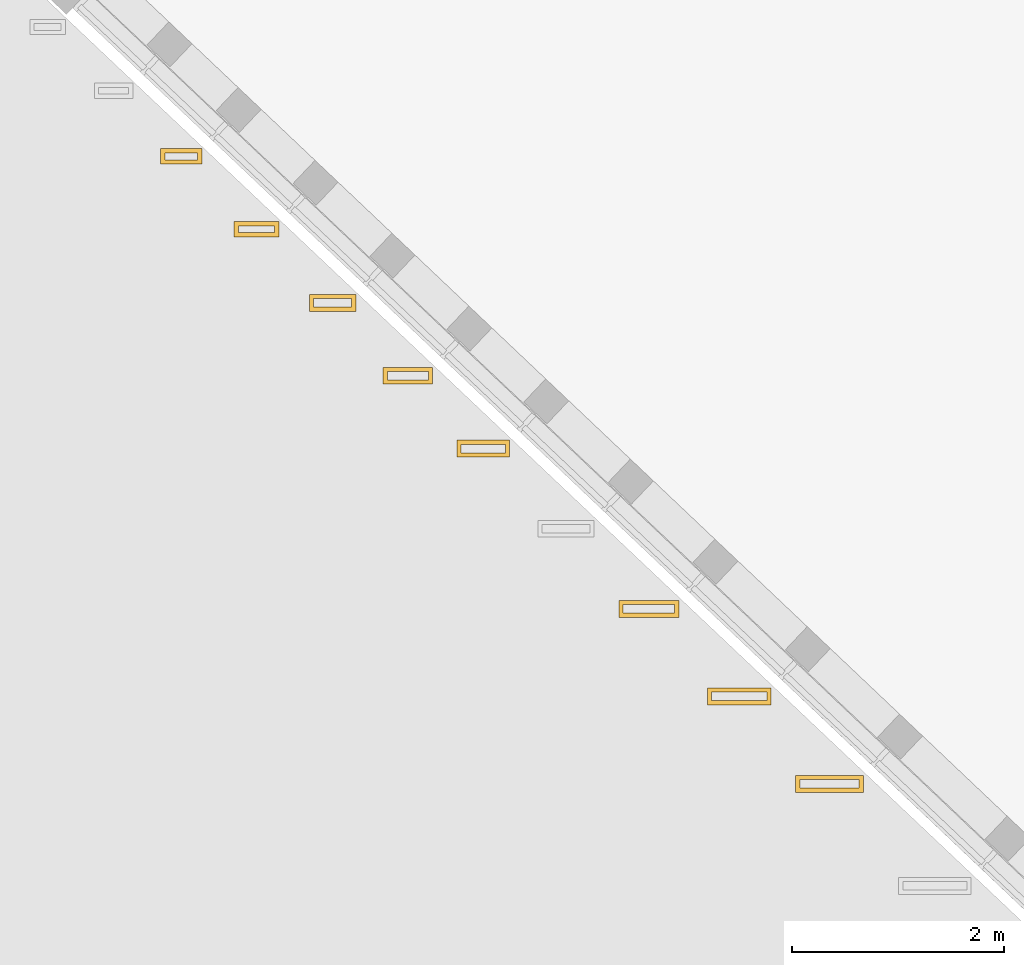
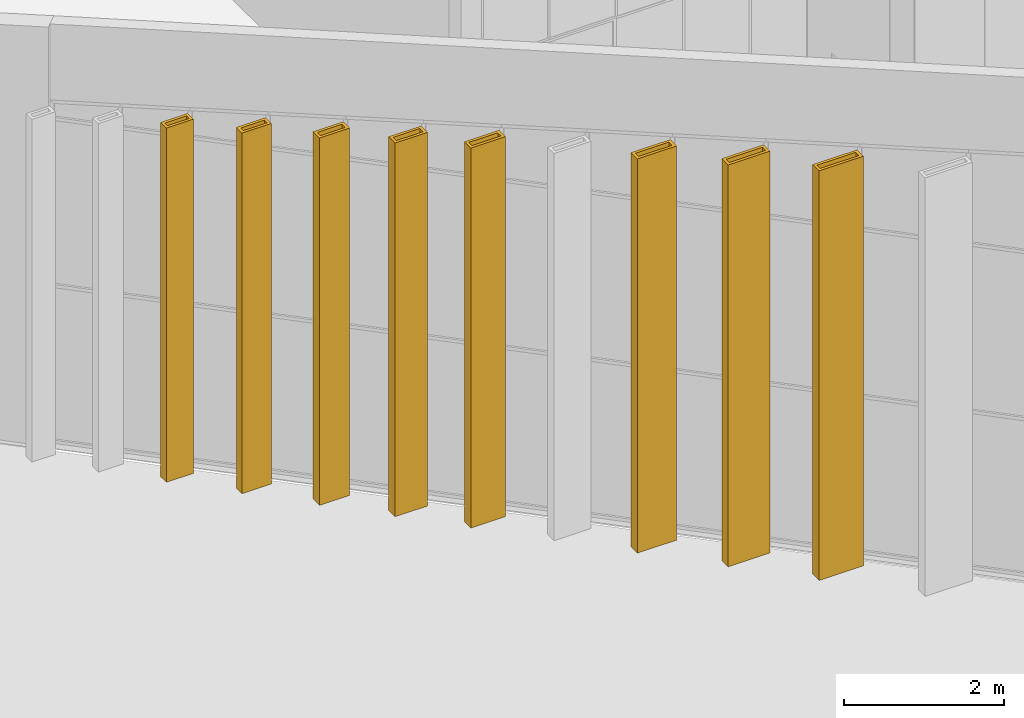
# One storey, part 176 of 246: 8 coverings.
"""IFC2X3 building model written with IfcOpenShell, lengths in millimetres."""

from ifc_helpers import new_model, entity, si_unit, converted_unit, derived_unit, money_unit, direction, frame, origin_with_axes, place, context, subcontext, project, spatial, faceted_brep, material, material_list, type_object, element, save


model = new_model("IFC2X3")

# Units and contexts
model_context = context("Model", 3, precision=0.01, world=origin_with_axes(), true_north=direction((0.0, 1.0)))
body_context = subcontext(model_context, "Body", "Model", "MODEL_VIEW")
ifc_project = project(units=[si_unit("LENGTHUNIT", "METRE", prefix="MILLI"), si_unit("AREAUNIT", "SQUARE_METRE"), si_unit("VOLUMEUNIT", "CUBIC_METRE"), converted_unit("PLANEANGLEUNIT", "DEGREE", entity("IfcPlaneAngleMeasure", 0.0174532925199), si_unit("PLANEANGLEUNIT", "RADIAN"), dimensions=[0, 0, 0, 0, 0, 0, 0]), si_unit("SOLIDANGLEUNIT", "STERADIAN"), money_unit("EUR"), converted_unit("TIMEUNIT", "Year", entity("IfcTimeMeasure", 31556926.0), si_unit("TIMEUNIT", "SECOND"), dimensions=[0, 0, 1, 0, 0, 0, 0]), si_unit("MASSUNIT", "GRAM", prefix="KILO"), si_unit("THERMODYNAMICTEMPERATUREUNIT", "DEGREE_CELSIUS"), si_unit("LUMINOUSINTENSITYUNIT", "LUMEN"), si_unit("ENERGYUNIT", "JOULE", prefix="MEGA"), derived_unit("THERMALCONDUCTANCEUNIT", [(si_unit("POWERUNIT", "WATT"), 1), (si_unit("LENGTHUNIT", "METRE"), -1), (si_unit("THERMODYNAMICTEMPERATUREUNIT", "KELVIN"), -1)]), derived_unit("SPECIFICHEATCAPACITYUNIT", [(si_unit("ENERGYUNIT", "JOULE"), 1), (si_unit("MASSUNIT", "GRAM", prefix="KILO"), -1), (si_unit("THERMODYNAMICTEMPERATUREUNIT", "KELVIN"), -1)]), derived_unit("MASSDENSITYUNIT", [(si_unit("MASSUNIT", "GRAM", prefix="KILO"), 1), (si_unit("VOLUMEUNIT", "CUBIC_METRE"), -1)])], contexts=[model_context])

# Site, building, storey
site_placement = place(None, origin_with_axes())
site = spatial("IfcSite", under=ifc_project, at=site_placement, Name="L.Koidula tn 11b", CompositionType="ELEMENT")
building_placement = place(site_placement, origin_with_axes())
building = spatial("IfcBuilding", under=site, at=building_placement, Name="Rakvere Riigigümnaasium", CompositionType="ELEMENT")
storey_placement = place(building_placement, origin_with_axes())
storey = spatial("IfcBuildingStorey", under=building, at=storey_placement, Name="1.korrus 0,00", CompositionType="ELEMENT", Elevation=0.0)

# Coverings
ifc_material_1 = material(Name="Puit-fassaad")
ifc_material_2 = material(Name="Teras - Konstruktsioon")
ifc_material_list = material_list([ifc_material_1, ifc_material_1, ifc_material_1, ifc_material_1, ifc_material_2])
covering_type_1 = type_object("IfcCoveringType", Name="AR-Lamell-laudisega 640 x 160", PredefinedType="NOTDEFINED")
covering_1_placement = place(storey_placement, frame((25640.2598745, 52503.4373023, 0.0), z_axis=(0.0, 0.0, 1.0), x_axis=(1.0, 0.0, 0.0)))
element("IfcCovering", 1, at=covering_1_placement, inside=storey, type_object=covering_type_1, material=ifc_material_list, Name="L-B7", PredefinedType="NOTDEFINED", context=body_context, shape_type="Brep", body=[
    faceted_brep([(-299.999998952, -60.0187676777, 0.0), (-299.999998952, -80.0001239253, 0.0), (-299.999998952, -80.0001239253, 6248.0), (-299.999998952, -60.0187676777, 6248.0), (270.000001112, -60.018758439, 0.0), (299.999991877, -60.0001239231, 0.0), (320.000001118, -60.0001239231, 0.0), (320.000001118, -80.0001239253, 0.0), (320.000001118, -80.0001239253, 6248.0), (320.000001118, -60.0001239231, 6248.0), (299.999991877, -60.0001239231, 6248.0), (270.000001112, -60.018758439, 6248.0)], [[[0, 1, 2, 3]], [[0, 4, 5, 6, 7, 1]], [[1, 7, 8, 2]], [[3, 2, 8, 9, 10, 11]], [[4, 0, 3, 11]], [[5, 4, 11, 10]], [[6, 5, 10, 9]], [[7, 6, 9, 8]]]),
    faceted_brep([(299.999991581, -60.0001223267, 0.0), (320.000001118, -60.0001223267, 0.0), (320.000001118, -60.0001223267, 6248.0), (299.999991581, -60.0001223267, 6248.0), (300.000001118, 60.0001256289, 0.0), (299.999991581, 80.0001256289, 0.0), (320.000001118, 80.0001256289, 0.0), (320.000001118, 80.0001256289, 6248.0), (299.999991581, 80.0001256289, 6248.0), (300.000001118, 60.0001256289, 6248.0)], [[[0, 1, 2, 3]], [[0, 4, 5, 6, 1]], [[1, 6, 7, 2]], [[3, 2, 7, 8, 9]], [[4, 0, 3, 9]], [[5, 4, 9, 8]], [[6, 5, 8, 7]]]),
    faceted_brep([(-319.999998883, 80.0001157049, 0.0), (-319.999998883, 60.0001250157, 0.0), (-319.999998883, 60.0001250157, 6248.0), (-319.999998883, 80.0001157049, 6248.0), (299.999998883, 80.0001157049, 0.0), (299.999998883, 60.0001250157, 0.0), (299.999998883, 60.0001250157, 6248.0), (299.999998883, 80.0001157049, 6248.0)], [[[0, 1, 2, 3]], [[0, 4, 5, 1]], [[1, 5, 6, 2]], [[3, 2, 6, 7]], [[4, 0, 3, 7]], [[5, 4, 7, 6]]]),
    faceted_brep([(-319.999998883, -80.0001239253, 0.0), (-299.999998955, -80.0001239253, 0.0), (-299.999998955, -80.0001239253, 6248.0), (-319.999998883, -80.0001239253, 6248.0), (-319.999998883, 60.0001250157, 0.0), (-300.281253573, 60.0001250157, 0.0), (-300.281253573, -60.018767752, 0.0), (-299.999998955, -60.018767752, 0.0), (-299.999998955, -60.018767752, 6248.0), (-300.281253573, -60.018767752, 6248.0), (-300.281253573, 60.0001250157, 6248.0), (-319.999998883, 60.0001250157, 6248.0)], [[[0, 1, 2, 3]], [[0, 4, 5, 6, 7, 1]], [[1, 7, 8, 2]], [[3, 2, 8, 9, 10, 11]], [[4, 0, 3, 11]], [[5, 4, 11, 10]], [[6, 5, 10, 9]], [[7, 6, 9, 8]]]),
    faceted_brep([(-300.281249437, -60.0187652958, 0.0), (270.000001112, -60.018758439, 0.0), (270.000001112, -60.018758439, 6248.0), (-300.281249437, -60.0187652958, 6248.0), (-300.281249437, 60.0001239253, 0.0), (299.999998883, 60.0001239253, 0.0), (299.999998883, -60.0187652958, 0.0), (-280.326915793, 40.1896922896, 0.0), (-280.326915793, -39.5291016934, 0.0), (279.615300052, -39.5291016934, 0.0), (279.615300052, 40.1896922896, 0.0), (299.999998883, -60.0187652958, 6248.0), (299.999998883, 60.0001239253, 6248.0), (-300.281249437, 60.0001239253, 6248.0), (-280.326915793, 40.1896922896, 6248.0), (279.615300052, 40.1896922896, 6248.0), (279.615300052, -39.5291016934, 6248.0), (-280.326915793, -39.5291016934, 6248.0)], [[[0, 1, 2, 3]], [[0, 4, 5, 6, 1], [7, 8, 9, 10]], [[1, 6, 11, 2]], [[3, 2, 11, 12, 13], [14, 15, 16, 17]], [[4, 0, 3, 13]], [[5, 4, 13, 12]], [[6, 5, 12, 11]], [[8, 7, 14, 17]], [[9, 8, 17, 16]], [[10, 9, 16, 15]], [[7, 10, 15, 14]]]),
])
covering_type_2 = type_object("IfcCoveringType", Name="AR-Lamell-laudisega 603 x 160", PredefinedType="NOTDEFINED")
covering_2_placement = place(storey_placement, frame((24787.6075989, 53328.7212983, 0.0), z_axis=(0.0, 0.0, 1.0), x_axis=(1.0, 0.0, 0.0)))
element("IfcCovering", 2, at=covering_2_placement, inside=storey, type_object=covering_type_2, material=ifc_material_list, Name="L-B6", PredefinedType="NOTDEFINED", context=body_context, shape_type="Brep", body=[
    faceted_brep([(-281.499997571, -60.0187889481, 0.0), (-281.499997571, -80.0001485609, 0.0), (-281.499997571, -80.0001485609, 6130.0), (-281.499997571, -60.0187889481, 6130.0), (251.49998992, -60.0187889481, 0.0), (281.499998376, -60.0001458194, 0.0), (301.500001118, -60.0001458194, 0.0), (301.500001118, -80.0001485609, 0.0), (301.500001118, -80.0001485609, 6130.0), (301.500001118, -60.0001458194, 6130.0), (281.499998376, -60.0001458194, 6130.0), (251.49998992, -60.0187889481, 6130.0)], [[[0, 1, 2, 3]], [[0, 4, 5, 6, 7, 1]], [[1, 7, 8, 2]], [[3, 2, 8, 9, 10, 11]], [[4, 0, 3, 11]], [[5, 4, 11, 10]], [[6, 5, 10, 9]], [[7, 6, 9, 8]]]),
    faceted_brep([(281.499999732, -60.0001465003, 0.0), (301.500001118, -60.0001465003, 0.0), (301.500001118, -60.0001465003, 6130.0), (281.499999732, -60.0001465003, 6130.0), (281.499999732, 60.0001493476, 0.0), (281.499999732, 80.0001507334, 0.0), (301.500001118, 80.0001507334, 0.0), (301.500001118, 80.0001507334, 6130.0), (281.499999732, 80.0001507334, 6130.0), (281.499999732, 60.0001493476, 6130.0)], [[[0, 1, 2, 3]], [[0, 4, 5, 6, 1]], [[1, 6, 7, 2]], [[3, 2, 7, 8, 9]], [[4, 0, 3, 9]], [[5, 4, 9, 8]], [[6, 5, 8, 7]]]),
    faceted_brep([(-301.499998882, 80.0001511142, 0.0), (-301.499998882, 60.0001484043, 0.0), (-301.499998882, 60.0001484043, 6130.0), (-301.499998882, 80.0001511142, 6130.0), (281.499998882, 80.0001511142, 0.0), (281.499998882, 60.0001484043, 0.0), (281.499998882, 60.0001484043, 6130.0), (281.499998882, 80.0001511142, 6130.0)], [[[0, 1, 2, 3]], [[0, 4, 5, 1]], [[1, 5, 6, 2]], [[3, 2, 6, 7]], [[4, 0, 3, 7]], [[5, 4, 7, 6]]]),
    faceted_brep([(-301.499998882, -80.0001485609, 0.0), (-281.499996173, -80.0001485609, 0.0), (-281.499996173, -80.0001485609, 6130.0), (-301.499998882, -80.0001485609, 6130.0), (-301.499998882, 60.0001484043, 0.0), (-281.781250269, 60.0001484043, 0.0), (-281.781250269, -60.0187889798, 0.0), (-281.499996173, -60.0187889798, 0.0), (-281.499996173, -60.0187889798, 6130.0), (-281.781250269, -60.0187889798, 6130.0), (-281.781250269, 60.0001484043, 6130.0), (-301.499998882, 60.0001484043, 6130.0)], [[[0, 1, 2, 3]], [[0, 4, 5, 6, 7, 1]], [[1, 7, 8, 2]], [[3, 2, 8, 9, 10, 11]], [[4, 0, 3, 11]], [[5, 4, 11, 10]], [[6, 5, 10, 9]], [[7, 6, 9, 8]]]),
    faceted_brep([(-281.781249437, -60.0187899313, 0.0), (251.49998992, -60.0187889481, 0.0), (251.49998992, -60.0187889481, 6130.0), (-281.781249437, -60.0187899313, 6130.0), (-281.781249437, 60.0001485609, 0.0), (281.499998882, 60.0001485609, 0.0), (281.499998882, -60.0187899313, 0.0), (-261.826915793, 40.1897169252, 0.0), (-261.826915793, -39.5291263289, 0.0), (261.115300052, -39.5291263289, 0.0), (261.115300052, 40.1897169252, 0.0), (281.499998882, -60.0187899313, 6130.0), (281.499998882, 60.0001485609, 6130.0), (-281.781249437, 60.0001485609, 6130.0), (-261.826915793, 40.1897169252, 6130.0), (261.115300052, 40.1897169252, 6130.0), (261.115300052, -39.5291263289, 6130.0), (-261.826915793, -39.5291263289, 6130.0)], [[[0, 1, 2, 3]], [[0, 4, 5, 6, 1], [7, 8, 9, 10]], [[1, 6, 11, 2]], [[3, 2, 11, 12, 13], [14, 15, 16, 17]], [[4, 0, 3, 13]], [[5, 4, 13, 12]], [[6, 5, 12, 11]], [[8, 7, 14, 17]], [[9, 8, 17, 16]], [[10, 9, 16, 15]], [[7, 10, 15, 14]]]),
])
covering_type_3 = type_object("IfcCoveringType", Name="AR-Lamell-laudisega 566 x 160", PredefinedType="NOTDEFINED")
covering_3_placement = place(storey_placement, frame((23934.9553233, 54154.351218, 0.0), z_axis=(0.0, 0.0, 1.0), x_axis=(1.0, 0.0, 0.0)))
element("IfcCovering", 3, at=covering_3_placement, inside=storey, type_object=covering_type_3, material=ifc_material_list, Name="L-B5", PredefinedType="NOTDEFINED", context=body_context, shape_type="Brep", body=[
    faceted_brep([(-262.999996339, -60.0188113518, 0.0), (-262.999996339, -80.0001731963, 0.0), (-262.999996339, -80.0001731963, 6013.0), (-262.999996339, -60.0188113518, 6013.0), (232.999989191, -60.0188194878, 0.0), (263.000007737, -60.0001716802, 0.0), (283.000001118, -60.0001716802, 0.0), (283.000001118, -80.0001731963, 0.0), (283.000001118, -80.0001731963, 6013.0), (283.000001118, -60.0001716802, 6013.0), (263.000007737, -60.0001716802, 6013.0), (232.999989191, -60.0188194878, 6013.0)], [[[0, 1, 2, 3]], [[0, 4, 5, 6, 7, 1]], [[1, 7, 8, 2]], [[3, 2, 8, 9, 10, 11]], [[4, 0, 3, 11]], [[5, 4, 11, 10]], [[6, 5, 10, 9]], [[7, 6, 9, 8]]]),
    faceted_brep([(262.999998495, 60.0001796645, 0.0), (263.000006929, -60.0001734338, 0.0), (263.000006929, -60.0001734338, 6013.0), (262.999998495, 60.0001796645, 6013.0), (263.000006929, 80.000173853, 0.0), (283.000001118, 80.000173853, 0.0), (283.000001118, -60.0001734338, 0.0), (283.000001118, -60.0001734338, 6013.0), (283.000001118, 80.000173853, 6013.0), (263.000006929, 80.000173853, 6013.0)], [[[0, 1, 2, 3]], [[0, 4, 5, 6, 1]], [[1, 6, 7, 2]], [[3, 2, 7, 8, 9]], [[4, 0, 3, 9]], [[5, 4, 9, 8]], [[6, 5, 8, 7]]]),
    faceted_brep([(-282.999998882, 80.000172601, 0.0), (-282.999998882, 60.0001710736, 0.0), (-282.999998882, 60.0001710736, 6013.0), (-282.999998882, 80.000172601, 6013.0), (262.999998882, 80.000172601, 0.0), (262.999998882, 60.0001792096, 0.0), (262.999998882, 60.0001792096, 6013.0), (262.999998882, 80.000172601, 6013.0)], [[[0, 1, 2, 3]], [[0, 4, 5, 1]], [[1, 5, 6, 2]], [[3, 2, 6, 7]], [[4, 0, 3, 7]], [[5, 4, 7, 6]]]),
    faceted_brep([(-282.999998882, -80.0001731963, 0.0), (-262.999997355, -80.0001731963, 0.0), (-262.999997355, -80.0001731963, 6013.0), (-282.999998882, -80.0001731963, 6013.0), (-282.999998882, 60.0001710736, 0.0), (-263.281252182, 60.0001710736, 0.0), (-263.281252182, -60.0188113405, 0.0), (-262.999997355, -60.0188113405, 0.0), (-262.999997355, -60.0188113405, 6013.0), (-263.281252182, -60.0188113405, 6013.0), (-263.281252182, 60.0001710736, 6013.0), (-282.999998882, 60.0001710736, 6013.0)], [[[0, 1, 2, 3]], [[0, 4, 5, 6, 7, 1]], [[1, 7, 8, 2]], [[3, 2, 8, 9, 10, 11]], [[4, 0, 3, 11]], [[5, 4, 11, 10]], [[6, 5, 10, 9]], [[7, 6, 9, 8]]]),
    faceted_brep([(-263.281249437, -60.0188145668, 0.0), (232.999989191, -60.0188194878, 0.0), (232.999989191, -60.0188194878, 6013.0), (-263.281249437, -60.0188145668, 6013.0), (-263.281249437, 60.0001731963, 0.0), (262.999998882, 60.0001731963, 0.0), (262.999998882, -60.0188145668, 0.0), (-243.326915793, 40.1897415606, 0.0), (-243.326915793, -39.5291509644, 0.0), (242.615300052, -39.5291509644, 0.0), (242.615300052, 40.1897415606, 0.0), (262.999998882, -60.0188145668, 6013.0), (262.999998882, 60.0001731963, 6013.0), (-263.281249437, 60.0001731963, 6013.0), (-243.326915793, 40.1897415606, 6013.0), (242.615300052, 40.1897415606, 6013.0), (242.615300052, -39.5291509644, 6013.0), (-243.326915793, -39.5291509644, 6013.0)], [[[0, 1, 2, 3]], [[0, 4, 5, 6, 1], [7, 8, 9, 10]], [[1, 6, 11, 2]], [[3, 2, 11, 12, 13], [14, 15, 16, 17]], [[4, 0, 3, 13]], [[5, 4, 13, 12]], [[6, 5, 12, 11]], [[8, 7, 14, 17]], [[9, 8, 17, 16]], [[10, 9, 16, 15]], [[7, 10, 15, 14]]]),
])
covering_type_4 = type_object("IfcCoveringType", Name="AR-Lamell-laudisega 499 x 160", PredefinedType="NOTDEFINED")
covering_4_placement = place(storey_placement, frame((22371.3428179, 55667.3734602, 0.0), z_axis=(0.0, 0.0, 1.0), x_axis=(1.0, 0.0, 0.0)))
element("IfcCovering", 4, at=covering_4_placement, inside=storey, type_object=covering_type_4, material=ifc_material_list, Name="L-B3", PredefinedType="NOTDEFINED", context=body_context, shape_type="Brep", body=[
    faceted_brep([(-229.499994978, -60.0188631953, 0.0), (-229.499994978, -80.0002224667, 0.0), (-229.499994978, -80.0002224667, 5797.0), (-229.499994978, -60.0188631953, 5797.0), (199.500001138, -60.018870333, 0.0), (229.499998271, -60.0002267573, 0.0), (249.500001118, -60.0002267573, 0.0), (249.500001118, -80.0002224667, 0.0), (249.500001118, -80.0002224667, 5797.0), (249.500001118, -60.0002267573, 5797.0), (229.499998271, -60.0002267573, 5797.0), (199.500001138, -60.018870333, 5797.0)], [[[0, 1, 2, 3]], [[0, 4, 5, 6, 7, 1]], [[1, 7, 8, 2]], [[3, 2, 8, 9, 10, 11]], [[4, 0, 3, 11]], [[5, 4, 11, 10]], [[6, 5, 10, 9]], [[7, 6, 9, 8]]]),
    faceted_brep([(229.499997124, -60.0002235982, 0.0), (249.500001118, -60.0002235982, 0.0), (249.500001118, -60.0002235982, 5797.0), (229.499997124, -60.0002235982, 5797.0), (229.499997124, 60.000224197, 0.0), (229.499997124, 80.0002281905, 0.0), (249.500001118, 80.0002281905, 0.0), (249.500001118, 80.0002281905, 5797.0), (229.499997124, 80.0002281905, 5797.0), (229.499997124, 60.000224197, 5797.0)], [[[0, 1, 2, 3]], [[0, 4, 5, 6, 1]], [[1, 6, 7, 2]], [[3, 2, 7, 8, 9]], [[4, 0, 3, 9]], [[5, 4, 9, 8]], [[6, 5, 8, 7]]]),
    faceted_brep([(-249.499998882, 80.0002219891, 0.0), (-249.499998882, 60.0002190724, 0.0), (-249.499998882, 60.0002190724, 5797.0), (-249.499998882, 80.0002219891, 5797.0), (229.499998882, 80.0002219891, 0.0), (229.499998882, 60.0002262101, 0.0), (229.499998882, 60.0002262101, 5797.0), (229.499998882, 80.0002219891, 5797.0)], [[[0, 1, 2, 3]], [[0, 4, 5, 1]], [[1, 5, 6, 2]], [[3, 2, 6, 7]], [[4, 0, 3, 7]], [[5, 4, 7, 6]]]),
    faceted_brep([(-249.499998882, -80.0002224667, 0.0), (-229.499995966, -80.0002224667, 0.0), (-229.499995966, -80.0002224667, 5797.0), (-249.499998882, -80.0002224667, 5797.0), (-249.499998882, 60.0002190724, 0.0), (-229.781248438, 60.0002190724, 0.0), (-229.781248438, -60.0188631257, 0.0), (-229.499995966, -60.0188631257, 0.0), (-229.499995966, -60.0188631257, 5797.0), (-229.781248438, -60.0188631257, 5797.0), (-229.781248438, 60.0002190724, 5797.0), (-249.499998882, 60.0002190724, 5797.0)], [[[0, 1, 2, 3]], [[0, 4, 5, 6, 7, 1]], [[1, 7, 8, 2]], [[3, 2, 8, 9, 10, 11]], [[4, 0, 3, 11]], [[5, 4, 11, 10]], [[6, 5, 10, 9]], [[7, 6, 9, 8]]]),
    faceted_brep([(-229.781249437, -60.0188638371, 0.0), (199.500001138, -60.018870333, 0.0), (199.500001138, -60.018870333, 5797.0), (-229.781249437, -60.0188638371, 5797.0), (-229.781249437, 60.0002224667, 0.0), (229.499998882, 60.0002224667, 0.0), (229.499998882, -60.0188638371, 0.0), (-209.826915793, 40.189790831, 0.0), (-209.826915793, -39.5292002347, 0.0), (209.115300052, -39.5292002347, 0.0), (209.115300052, 40.189790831, 0.0), (229.499998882, -60.0188638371, 5797.0), (229.499998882, 60.0002224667, 5797.0), (-229.781249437, 60.0002224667, 5797.0), (-209.826915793, 40.189790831, 5797.0), (209.115300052, 40.189790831, 5797.0), (209.115300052, -39.5292002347, 5797.0), (-209.826915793, -39.5292002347, 5797.0)], [[[0, 1, 2, 3]], [[0, 4, 5, 6, 1], [7, 8, 9, 10]], [[1, 6, 11, 2]], [[3, 2, 11, 12, 13], [14, 15, 16, 17]], [[4, 0, 3, 13]], [[5, 4, 13, 12]], [[6, 5, 12, 11]], [[8, 7, 14, 17]], [[9, 8, 17, 16]], [[10, 9, 16, 15]], [[7, 10, 15, 14]]]),
])
covering_type_5 = type_object("IfcCoveringType", Name="AR-Lamell-laudisega 468 x 160", PredefinedType="NOTDEFINED")
covering_5_placement = place(storey_placement, frame((21660.8825882, 56354.7626088, 0.0), z_axis=(0.0, 0.0, 1.0), x_axis=(1.0, 0.0, 0.0)))
element("IfcCovering", 5, at=covering_5_placement, inside=storey, type_object=covering_type_5, material=ifc_material_list, Name="L-B2", PredefinedType="NOTDEFINED", context=body_context, shape_type="Brep", body=[
    faceted_brep([(-214.000002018, -60.0188894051, 0.0), (-214.000002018, -80.0002471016, 0.0), (-214.000002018, -80.0002471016, 5700.0), (-214.000002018, -60.0188894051, 5700.0), (184.000003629, -60.0188827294, 0.0), (214.000004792, -60.0002441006, 0.0), (234.000001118, -60.0002441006, 0.0), (234.000001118, -80.0002471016, 0.0), (234.000001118, -80.0002471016, 5700.0), (234.000001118, -60.0002441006, 5700.0), (214.000004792, -60.0002441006, 5700.0), (184.000003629, -60.0188827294, 5700.0)], [[[0, 1, 2, 3]], [[0, 4, 5, 6, 7, 1]], [[1, 7, 8, 2]], [[3, 2, 8, 9, 10, 11]], [[4, 0, 3, 11]], [[5, 4, 11, 10]], [[6, 5, 10, 9]], [[7, 6, 9, 8]]]),
    faceted_brep([(213.999997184, 60.0002460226, 0.0), (214.000004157, -60.0002448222, 0.0), (214.000004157, -60.0002448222, 5700.0), (213.999997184, 60.0002460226, 5700.0), (214.000004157, 80.0002429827, 0.0), (234.000001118, 80.0002429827, 0.0), (234.000001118, -60.0002448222, 0.0), (234.000001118, -60.0002448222, 5700.0), (234.000001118, 80.0002429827, 5700.0), (214.000004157, 80.0002429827, 5700.0)], [[[0, 1, 2, 3]], [[0, 4, 5, 6, 1]], [[1, 6, 7, 2]], [[3, 2, 7, 8, 9]], [[4, 0, 3, 9]], [[5, 4, 9, 8]], [[6, 5, 8, 7]]]),
    faceted_brep([(-233.999998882, 80.0002422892, 0.0), (-233.999998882, 60.0002462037, 0.0), (-233.999998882, 60.0002462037, 5700.0), (-233.999998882, 80.0002422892, 5700.0), (213.999998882, 80.0002422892, 0.0), (213.999998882, 60.0002462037, 0.0), (213.999998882, 60.0002462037, 5700.0), (213.999998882, 80.0002422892, 5700.0)], [[[0, 1, 2, 3]], [[0, 4, 5, 1]], [[1, 5, 6, 2]], [[3, 2, 6, 7]], [[4, 0, 3, 7]], [[5, 4, 7, 6]]]),
    faceted_brep([(-233.999998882, -80.0002471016, 0.0), (-214.000002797, -80.0002471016, 0.0), (-214.000002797, -80.0002471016, 5700.0), (-233.999998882, -80.0002471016, 5700.0), (-233.999998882, 60.0002462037, 0.0), (-214.281251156, 60.0002462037, 0.0), (-214.281251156, -60.0188896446, 0.0), (-214.000002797, -60.0188896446, 0.0), (-214.000002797, -60.0188896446, 5700.0), (-214.281251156, -60.0188896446, 5700.0), (-214.281251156, 60.0002462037, 5700.0), (-233.999998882, 60.0002462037, 5700.0)], [[[0, 1, 2, 3]], [[0, 4, 5, 6, 7, 1]], [[1, 7, 8, 2]], [[3, 2, 8, 9, 10, 11]], [[4, 0, 3, 11]], [[5, 4, 11, 10]], [[6, 5, 10, 9]], [[7, 6, 9, 8]]]),
    faceted_brep([(-214.281249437, -60.018888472, 0.0), (184.000003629, -60.0188827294, 0.0), (184.000003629, -60.0188827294, 5700.0), (-214.281249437, -60.018888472, 5700.0), (-214.281249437, 60.0002471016, 0.0), (213.999998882, 60.0002471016, 0.0), (213.999998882, -60.018888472, 0.0), (-194.326915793, 40.1898154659, 0.0), (-194.326915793, -39.5292248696, 0.0), (193.615300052, -39.5292248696, 0.0), (193.615300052, 40.1898154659, 0.0), (213.999998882, -60.018888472, 5700.0), (213.999998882, 60.0002471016, 5700.0), (-214.281249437, 60.0002471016, 5700.0), (-194.326915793, 40.1898154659, 5700.0), (193.615300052, 40.1898154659, 5700.0), (193.615300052, -39.5292248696, 5700.0), (-194.326915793, -39.5292248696, 5700.0)], [[[0, 1, 2, 3]], [[0, 4, 5, 6, 1], [7, 8, 9, 10]], [[1, 6, 11, 2]], [[3, 2, 11, 12, 13], [14, 15, 16, 17]], [[4, 0, 3, 13]], [[5, 4, 13, 12]], [[6, 5, 12, 11]], [[8, 7, 14, 17]], [[9, 8, 17, 16]], [[10, 9, 16, 15]], [[7, 10, 15, 14]]]),
])
covering_type_6 = type_object("IfcCoveringType", Name="AR-Lamell-laudisega 437 x 160", PredefinedType="NOTDEFINED")
covering_6_placement = place(storey_placement, frame((20950.4223585, 57042.499268, 0.0), z_axis=(0.0, 0.0, 1.0), x_axis=(1.0, 0.0, 0.0)))
element("IfcCovering", 6, at=covering_6_placement, inside=storey, type_object=covering_type_6, material=ifc_material_list, Name="L-B1", PredefinedType="NOTDEFINED", context=body_context, shape_type="Brep", body=[
    faceted_brep([(-198.499998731, -60.0189161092, 0.0), (-198.499998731, -80.0002717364, 0.0), (-198.499998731, -80.0002717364, 5602.0), (-198.499998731, -60.0189161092, 5602.0), (168.499999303, -60.0189161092, 0.0), (198.499997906, -60.000268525, 0.0), (218.500001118, -60.000268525, 0.0), (218.500001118, -80.0002717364, 0.0), (218.500001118, -80.0002717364, 5602.0), (218.500001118, -60.000268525, 5602.0), (198.499997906, -60.000268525, 5602.0), (168.499999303, -60.0189161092, 5602.0)], [[[0, 1, 2, 3]], [[0, 4, 5, 6, 7, 1]], [[1, 7, 8, 2]], [[3, 2, 8, 9, 10, 11]], [[4, 0, 3, 11]], [[5, 4, 11, 10]], [[6, 5, 10, 9]], [[7, 6, 9, 8]]]),
    faceted_brep([(198.500000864, -60.0002715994, 0.0), (218.500001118, -60.0002715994, 0.0), (218.500001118, -60.0002715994, 5602.0), (198.500000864, -60.0002715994, 5602.0), (198.500000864, 60.0002638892, 0.0), (198.500000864, 80.0002706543, 0.0), (218.500001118, 80.0002706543, 0.0), (218.500001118, 80.0002706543, 5602.0), (198.500000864, 80.0002706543, 5602.0), (198.500000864, 60.0002638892, 5602.0)], [[[0, 1, 2, 3]], [[0, 4, 5, 6, 1]], [[1, 6, 7, 2]], [[3, 2, 7, 8, 9]], [[4, 0, 3, 9]], [[5, 4, 9, 8]], [[6, 5, 8, 7]]]),
    faceted_brep([(-218.499998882, 80.0002688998, 0.0), (-218.499998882, 60.0002720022, 0.0), (-218.499998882, 60.0002720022, 5602.0), (-218.499998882, 80.0002688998, 5602.0), (198.499998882, 80.0002688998, 0.0), (198.499998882, 60.0002657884, 0.0), (198.499998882, 60.0002657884, 5602.0), (198.499998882, 80.0002688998, 5602.0)], [[[0, 1, 2, 3]], [[0, 4, 5, 1]], [[1, 5, 6, 2]], [[3, 2, 6, 7]], [[4, 0, 3, 7]], [[5, 4, 7, 6]]]),
    faceted_brep([(-218.499998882, -80.0002717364, 0.0), (-198.500001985, -80.0002717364, 0.0), (-198.500001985, -80.0002717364, 5602.0), (-218.499998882, -80.0002717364, 5602.0), (-218.499998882, 60.0002720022, 0.0), (-198.781250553, 60.0002720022, 0.0), (-198.781250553, -60.018916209, 0.0), (-198.500001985, -60.018916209, 0.0), (-198.500001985, -60.018916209, 5602.0), (-198.781250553, -60.018916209, 5602.0), (-198.781250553, 60.0002720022, 5602.0), (-218.499998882, 60.0002720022, 5602.0)], [[[0, 1, 2, 3]], [[0, 4, 5, 6, 7, 1]], [[1, 7, 8, 2]], [[3, 2, 8, 9, 10, 11]], [[4, 0, 3, 11]], [[5, 4, 11, 10]], [[6, 5, 10, 9]], [[7, 6, 9, 8]]]),
    faceted_brep([(-198.781249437, -60.0189131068, 0.0), (168.499999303, -60.0189161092, 0.0), (168.499999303, -60.0189161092, 5602.0), (-198.781249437, -60.0189131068, 5602.0), (-198.781249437, 60.0002717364, 0.0), (198.499998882, 60.0002717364, 0.0), (198.499998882, -60.0189131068, 0.0), (-178.826915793, 40.1898401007, 0.0), (-178.826915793, -39.5292495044, 0.0), (178.115300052, -39.5292495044, 0.0), (178.115300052, 40.1898401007, 0.0), (198.499998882, -60.0189131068, 5602.0), (198.499998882, 60.0002717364, 5602.0), (-198.781249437, 60.0002717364, 5602.0), (-178.826915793, 40.1898401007, 5602.0), (178.115300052, 40.1898401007, 5602.0), (178.115300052, -39.5292495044, 5602.0), (-178.826915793, -39.5292495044, 5602.0)], [[[0, 1, 2, 3]], [[0, 4, 5, 6, 1], [7, 8, 9, 10]], [[1, 6, 11, 2]], [[3, 2, 11, 12, 13], [14, 15, 16, 17]], [[4, 0, 3, 13]], [[5, 4, 13, 12]], [[6, 5, 12, 11]], [[8, 7, 14, 17]], [[9, 8, 17, 16]], [[10, 9, 16, 15]], [[7, 10, 15, 14]]]),
])
covering_type_7 = type_object("IfcCoveringType", Name="AR-Lamell-laudisega 422 x 145", PredefinedType="NOTDEFINED")
covering_7_placement = place(storey_placement, frame((20231.9621288, 57737.7354876, 0.0), z_axis=(0.0, 0.0, 1.0), x_axis=(1.0, 0.0, 0.0)))
element("IfcCovering", 7, at=covering_7_placement, inside=storey, type_object=covering_type_7, material=ifc_material_list, Name="L-A10", PredefinedType="NOTDEFINED", context=body_context, shape_type="Brep", body=[
    faceted_brep([(-190.999998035, -52.5193984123, 0.0), (-190.999998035, -72.5007550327, 0.0), (-190.999998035, -72.5007550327, 5501.0), (-190.999998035, -52.5193984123, 5501.0), (160.999999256, -52.519392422, 0.0), (191.000002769, -52.500750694, 0.0), (211.000001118, -52.500750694, 0.0), (211.000001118, -72.5007550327, 0.0), (211.000001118, -72.5007550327, 5501.0), (211.000001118, -52.500750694, 5501.0), (191.000002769, -52.500750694, 5501.0), (160.999999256, -52.519392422, 5501.0)], [[[0, 1, 2, 3]], [[0, 4, 5, 6, 7, 1]], [[1, 7, 8, 2]], [[3, 2, 8, 9, 10, 11]], [[4, 0, 3, 11]], [[5, 4, 11, 10]], [[6, 5, 10, 9]], [[7, 6, 9, 8]]]),
    faceted_brep([(191.000000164, -52.5007536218, 0.0), (211.000001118, -52.5007536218, 0.0), (211.000001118, -52.5007536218, 5501.0), (191.000000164, -52.5007536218, 5501.0), (191.000000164, 52.5007542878, 0.0), (191.000000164, 72.5007552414, 0.0), (211.000001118, 72.5007552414, 0.0), (211.000001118, 72.5007552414, 5501.0), (191.000000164, 72.5007552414, 5501.0), (191.000000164, 52.5007542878, 5501.0)], [[[0, 1, 2, 3]], [[0, 4, 5, 6, 1]], [[1, 6, 7, 2]], [[3, 2, 7, 8, 9]], [[4, 0, 3, 9]], [[5, 4, 9, 8]], [[6, 5, 8, 7]]]),
    faceted_brep([(-210.999998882, 72.5007510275, 0.0), (-210.999998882, 52.500752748, 0.0), (-210.999998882, 52.500752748, 5501.0), (-210.999998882, 72.5007510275, 5501.0), (190.999998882, 72.5007510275, 0.0), (190.999998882, 52.500752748, 0.0), (190.999998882, 52.500752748, 5501.0), (190.999998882, 72.5007510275, 5501.0)], [[[0, 1, 2, 3]], [[0, 4, 5, 1]], [[1, 5, 6, 2]], [[3, 2, 6, 7]], [[4, 0, 3, 7]], [[5, 4, 7, 6]]]),
    faceted_brep([(-210.999998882, -72.5007550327, 0.0), (-191.000000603, -72.5007550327, 0.0), (-191.000000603, -72.5007550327, 5501.0), (-210.999998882, -72.5007550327, 5501.0), (-210.999998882, 52.500752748, 0.0), (-191.281249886, 52.500752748, 0.0), (-191.281249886, -52.5193984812, 0.0), (-191.000000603, -52.5193984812, 0.0), (-191.000000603, -52.5193984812, 5501.0), (-191.281249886, -52.5193984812, 5501.0), (-191.281249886, 52.500752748, 5501.0), (-210.999998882, 52.500752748, 5501.0)], [[[0, 1, 2, 3]], [[0, 4, 5, 6, 7, 1]], [[1, 7, 8, 2]], [[3, 2, 8, 9, 10, 11]], [[4, 0, 3, 11]], [[5, 4, 11, 10]], [[6, 5, 10, 9]], [[7, 6, 9, 8]]]),
    faceted_brep([(-191.281249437, -52.5193964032, 0.0), (160.999999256, -52.519392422, 0.0), (160.999999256, -52.519392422, 5501.0), (-191.281249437, -52.5193964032, 5501.0), (-191.281249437, 52.5007550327, 0.0), (190.999998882, 52.5007550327, 0.0), (190.999998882, -52.5193964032, 0.0), (-171.326915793, 32.6903233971, 0.0), (-171.326915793, -32.0297328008, 0.0), (170.615300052, -32.0297328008, 0.0), (170.615300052, 32.6903233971, 0.0), (190.999998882, -52.5193964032, 5501.0), (190.999998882, 52.5007550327, 5501.0), (-191.281249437, 52.5007550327, 5501.0), (-171.326915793, 32.6903233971, 5501.0), (170.615300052, 32.6903233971, 5501.0), (170.615300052, -32.0297328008, 5501.0), (-171.326915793, -32.0297328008, 5501.0)], [[[0, 1, 2, 3]], [[0, 4, 5, 6, 1], [7, 8, 9, 10]], [[1, 6, 11, 2]], [[3, 2, 11, 12, 13], [14, 15, 16, 17]], [[4, 0, 3, 13]], [[5, 4, 13, 12]], [[6, 5, 12, 11]], [[8, 7, 14, 17]], [[9, 8, 17, 16]], [[10, 9, 16, 15]], [[7, 10, 15, 14]]]),
])
covering_type_8 = type_object("IfcCoveringType", Name="AR-Lamell-laudisega 391 x 145", PredefinedType="NOTDEFINED")
covering_8_placement = place(storey_placement, frame((19521.5198783, 58425.4547564, 0.0), z_axis=(0.0, 0.0, 1.0), x_axis=(1.0, 0.0, 0.0)))
element("IfcCovering", 8, at=covering_8_placement, inside=storey, type_object=covering_type_8, material=ifc_material_list, Name="L-A9", PredefinedType="NOTDEFINED", context=body_context, shape_type="Brep", body=[
    faceted_brep([(-175.500000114, -52.5193968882, 0.0), (-175.500000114, -72.5007550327, 0.0), (-175.500000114, -72.5007550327, 5403.0), (-175.500000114, -52.5193968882, 5403.0), (145.499999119, -52.5193968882, 0.0), (175.499995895, -52.5007553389, 0.0), (195.500001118, -52.5007553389, 0.0), (195.500001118, -72.5007550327, 0.0), (195.500001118, -72.5007550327, 5403.0), (195.500001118, -52.5007553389, 5403.0), (175.499995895, -52.5007553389, 5403.0), (145.499999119, -52.5193968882, 5403.0)], [[[0, 1, 2, 3]], [[0, 4, 5, 6, 7, 1]], [[1, 7, 8, 2]], [[3, 2, 8, 9, 10, 11]], [[4, 0, 3, 11]], [[5, 4, 11, 10]], [[6, 5, 10, 9]], [[7, 6, 9, 8]]]),
    faceted_brep([(175.499996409, -52.5007573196, 0.0), (195.500001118, -52.5007573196, 0.0), (195.500001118, -52.5007573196, 5403.0), (175.499996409, -52.5007573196, 5403.0), (175.499996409, 52.5007531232, 0.0), (175.499996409, 72.5007520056, 0.0), (195.500001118, 72.5007520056, 0.0), (195.500001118, 72.5007520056, 5403.0), (175.499996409, 72.5007520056, 5403.0), (175.499996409, 52.5007531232, 5403.0)], [[[0, 1, 2, 3]], [[0, 4, 5, 6, 1]], [[1, 6, 7, 2]], [[3, 2, 7, 8, 9]], [[4, 0, 3, 9]], [[5, 4, 9, 8]], [[6, 5, 8, 7]]]),
    faceted_brep([(-195.499998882, 72.5007547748, 0.0), (-195.499998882, 52.5007552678, 0.0), (-195.499998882, 52.5007552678, 5403.0), (-195.499998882, 72.5007547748, 5403.0), (175.499998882, 72.5007547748, 0.0), (175.499998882, 52.5007552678, 0.0), (175.499998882, 52.5007552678, 5403.0), (175.499998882, 72.5007547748, 5403.0)], [[[0, 1, 2, 3]], [[0, 4, 5, 1]], [[1, 5, 6, 2]], [[3, 2, 6, 7]], [[4, 0, 3, 7]], [[5, 4, 7, 6]]]),
    faceted_brep([(-195.499998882, -72.5007550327, 0.0), (-175.499999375, -72.5007550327, 0.0), (-175.499999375, -72.5007550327, 5403.0), (-195.499998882, -72.5007550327, 5403.0), (-195.499998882, 52.5007552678, 0.0), (-175.781247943, 52.5007552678, 0.0), (-175.781247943, -52.5193970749, 0.0), (-175.499999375, -52.5193970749, 0.0), (-175.499999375, -52.5193970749, 5403.0), (-175.781247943, -52.5193970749, 5403.0), (-175.781247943, 52.5007552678, 5403.0), (-195.499998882, 52.5007552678, 5403.0)], [[[0, 1, 2, 3]], [[0, 4, 5, 6, 7, 1]], [[1, 7, 8, 2]], [[3, 2, 8, 9, 10, 11]], [[4, 0, 3, 11]], [[5, 4, 11, 10]], [[6, 5, 10, 9]], [[7, 6, 9, 8]]]),
    faceted_brep([(-175.781249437, -52.5193964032, 0.0), (145.499999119, -52.5193968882, 0.0), (145.499999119, -52.5193968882, 5403.0), (-175.781249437, -52.5193964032, 5403.0), (-175.781249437, 52.5007550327, 0.0), (175.499998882, 52.5007550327, 0.0), (175.499998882, -52.5193964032, 0.0), (-155.826915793, 32.6903233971, 0.0), (-155.826915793, -32.0297328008, 0.0), (155.115300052, -32.0297328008, 0.0), (155.115300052, 32.6903233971, 0.0), (175.499998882, -52.5193964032, 5403.0), (175.499998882, 52.5007550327, 5403.0), (-175.781249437, 52.5007550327, 5403.0), (-155.826915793, 32.6903233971, 5403.0), (155.115300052, 32.6903233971, 5403.0), (155.115300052, -32.0297328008, 5403.0), (-155.826915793, -32.0297328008, 5403.0)], [[[0, 1, 2, 3]], [[0, 4, 5, 6, 1], [7, 8, 9, 10]], [[1, 6, 11, 2]], [[3, 2, 11, 12, 13], [14, 15, 16, 17]], [[4, 0, 3, 13]], [[5, 4, 13, 12]], [[6, 5, 12, 11]], [[8, 7, 14, 17]], [[9, 8, 17, 16]], [[10, 9, 16, 15]], [[7, 10, 15, 14]]]),
])

save(model, "model.ifc")
